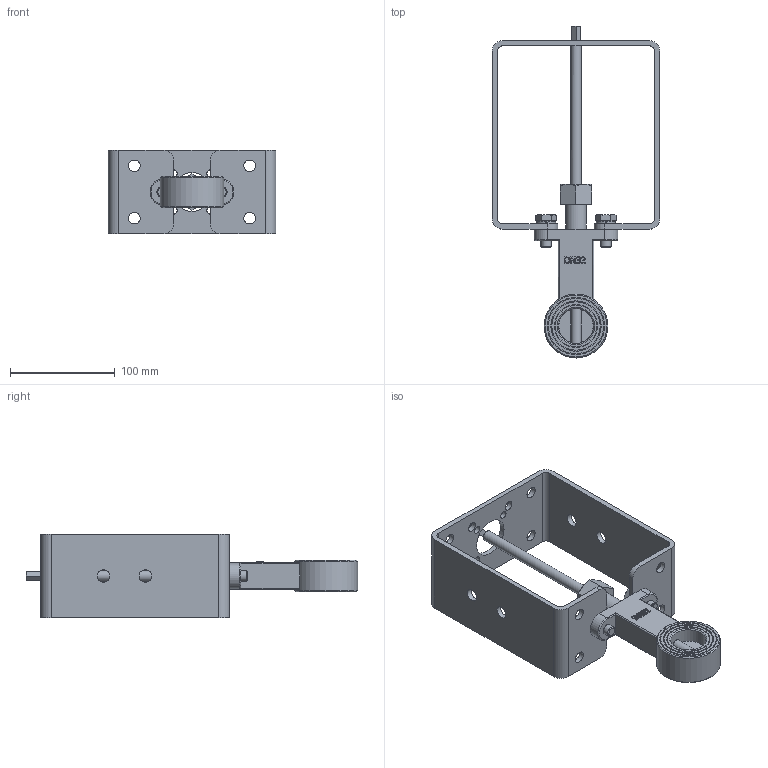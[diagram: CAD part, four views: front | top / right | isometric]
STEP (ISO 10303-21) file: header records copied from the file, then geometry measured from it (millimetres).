
FILE_DESCRIPTION(/* description */ (''),/* implementation_level */ '2;1');
FILE_NAME(/* name */ 'C:\Users\miv\Desktop\Typ 5k DN32\Typ 5k DN32.stp',/* time_stamp */ '2018-04-20T08:11:53+02:00',/* author */ ('Technik-3D'),/* organization */ (''),/* preprocessor_version */ 'ST-DEVELOPER v16.1',/* originating_system */ 'Autodesk Inventor 2016',/* authorisation */ '');
FILE_SCHEMA (('AUTOMOTIVE_DESIGN { 1 0 10303 214 3 1 1 }'));
Length unit declared in the file: centimetre
Products named in the file (1): Typ 5k DN32
Bounding box: 160 x 317 x 80 mm (x, y, z)
Volume: 396225.7 mm3; surface area: 148662.7 mm2
Topology: 1 solids, 2 shells, 294 faces, 736 edges, 474 vertices
Faces by surface type: plane 140, cylinder 82, bspline 38, cone 32, torus 2
Full cylindrical faces by diameter (mm): 7 x4, 9 x4, 9.188 x2, 10 x6, 10.3 x1, 10.5 x2, 11 x11, 12.1 x4, 12.7 x1, 13 x1, 15.4 x2, 16 x1, 20 x1, 33 x1, 33.5 x1, 37 x1, 39.9 x2, 41.3 x2, 46.1 x2, 48.1 x2, 52.9 x2, 54.9 x2, 61 x1
Entity records: 8765 total; most frequent: CARTESIAN_POINT 2021, ORIENTED_EDGE 1262, DIRECTION 1248, EDGE_CURVE 629, AXIS2_PLACEMENT_3D 474, EDGE_LOOP 450, VERTEX_POINT 441, LINE 300
